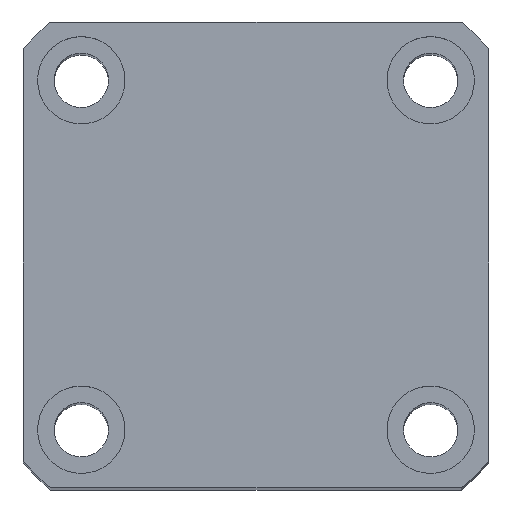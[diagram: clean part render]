
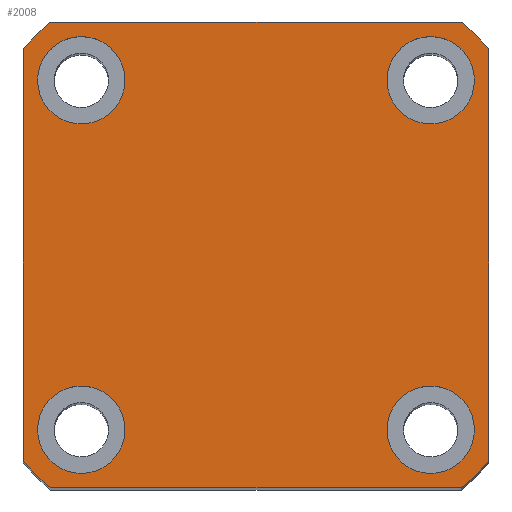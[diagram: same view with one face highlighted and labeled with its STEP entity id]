
A CAD part, top view. The second image highlights one B-rep face of the part: STEP entity #2008.
In plain terms, the highlighted planar face has unit normal (0, 0, 1) as drawn and (1, 0, 0) by its records, which use the part's own axes.
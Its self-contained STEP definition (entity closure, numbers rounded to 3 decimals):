
#76 = CARTESIAN_POINT ( 'NONE',  ( 120., 0., 0. ) ) ;
#86 = VERTEX_POINT ( 'NONE', #9124 ) ;
#99 = DIRECTION ( 'NONE',  ( 1., 0., 0. ) ) ;
#115 = DIRECTION ( 'NONE',  ( 0., 0., -1. ) ) ;
#128 = AXIS2_PLACEMENT_3D ( 'NONE', #5880, #972, #6696 ) ;
#230 = VECTOR ( 'NONE', #8205, 1000. ) ;
#255 = VERTEX_POINT ( 'NONE', #9692 ) ;
#265 = EDGE_CURVE ( 'NONE', #6710, #255, #4548, .T. ) ;
#287 = CARTESIAN_POINT ( 'NONE',  ( 120., -18., -22.5 ) ) ;
#294 = ORIENTED_EDGE ( 'NONE', *, *, #1187, .T. ) ;
#351 = VERTEX_POINT ( 'NONE', #287 ) ;
#440 = CARTESIAN_POINT ( 'NONE',  ( 120., 24., 24. ) ) ;
#732 = VERTEX_POINT ( 'NONE', #10292 ) ;
#972 = DIRECTION ( 'NONE',  ( 1., 0., 0. ) ) ;
#1020 = CARTESIAN_POINT ( 'NONE',  ( 120., 24., -21.166 ) ) ;
#1026 = VERTEX_POINT ( 'NONE', #8653 ) ;
#1082 = AXIS2_PLACEMENT_3D ( 'NONE', #1094, #6814, #1909 ) ;
#1094 = CARTESIAN_POINT ( 'NONE',  ( 120., 0., 0. ) ) ;
#1187 = EDGE_CURVE ( 'NONE', #2970, #732, #3881, .T. ) ;
#1197 = DIRECTION ( 'NONE',  ( 1., 0., 0. ) ) ;
#1320 = ORIENTED_EDGE ( 'NONE', *, *, #6054, .T. ) ;
#1357 = ORIENTED_EDGE ( 'NONE', *, *, #2618, .T. ) ;
#1427 = EDGE_LOOP ( 'NONE', ( #3782, #4783 ) ) ;
#1434 = FACE_BOUND ( 'NONE', #3692, .T. ) ;
#1490 = CIRCLE ( 'NONE', #10005, 4.5 ) ;
#1832 = ORIENTED_EDGE ( 'NONE', *, *, #9576, .F. ) ;
#1898 = CARTESIAN_POINT ( 'NONE',  ( 120., 18., 18. ) ) ;
#1909 = DIRECTION ( 'NONE',  ( 0., 0., -1. ) ) ;
#1947 = AXIS2_PLACEMENT_3D ( 'NONE', #8275, #8216, #7265 ) ;
#2008 = ADVANCED_FACE ( 'NONE', ( #8255, #1434, #5799, #5529, #3328 ), #3156, .T. ) ;
#2137 = VECTOR ( 'NONE', #6811, 1000. ) ;
#2180 = CIRCLE ( 'NONE', #2672, 32. ) ;
#2339 = ORIENTED_EDGE ( 'NONE', *, *, #8040, .F. ) ;
#2591 = ORIENTED_EDGE ( 'NONE', *, *, #3920, .F. ) ;
#2618 = EDGE_CURVE ( 'NONE', #8351, #6082, #2180, .T. ) ;
#2672 = AXIS2_PLACEMENT_3D ( 'NONE', #8628, #8724, #8872 ) ;
#2708 = DIRECTION ( 'NONE',  ( 0., 0., -1. ) ) ;
#2750 = EDGE_CURVE ( 'NONE', #6082, #4438, #9973, .T. ) ;
#2808 = CARTESIAN_POINT ( 'NONE',  ( 120., 18., -18. ) ) ;
#2814 = LINE ( 'NONE', #5028, #8885 ) ;
#2935 = AXIS2_PLACEMENT_3D ( 'NONE', #4613, #10442, #5424 ) ;
#2970 = VERTEX_POINT ( 'NONE', #9471 ) ;
#2976 = DIRECTION ( 'NONE',  ( 1., 0., 0. ) ) ;
#3156 = PLANE ( 'NONE',  #5295 ) ;
#3245 = ORIENTED_EDGE ( 'NONE', *, *, #8116, .F. ) ;
#3248 = CARTESIAN_POINT ( 'NONE',  ( 120., -24., 24. ) ) ;
#3307 = CARTESIAN_POINT ( 'NONE',  ( 120., 18., -13.5 ) ) ;
#3317 = VECTOR ( 'NONE', #10069, 1000. ) ;
#3324 = EDGE_LOOP ( 'NONE', ( #2591, #4026 ) ) ;
#3328 = FACE_OUTER_BOUND ( 'NONE', #9386, .T. ) ;
#3382 = CIRCLE ( 'NONE', #10370, 4.5 ) ;
#3446 = CIRCLE ( 'NONE', #7840, 4.5 ) ;
#3633 = DIRECTION ( 'NONE',  ( 0., 0., -1. ) ) ;
#3637 = DIRECTION ( 'NONE',  ( 0., 0., -1. ) ) ;
#3692 = EDGE_LOOP ( 'NONE', ( #3245, #3784 ) ) ;
#3782 = ORIENTED_EDGE ( 'NONE', *, *, #9056, .F. ) ;
#3784 = ORIENTED_EDGE ( 'NONE', *, *, #4975, .F. ) ;
#3799 = VERTEX_POINT ( 'NONE', #4010 ) ;
#3881 = CIRCLE ( 'NONE', #10638, 32. ) ;
#3889 = CARTESIAN_POINT ( 'NONE',  ( 120., -18., 18. ) ) ;
#3920 = EDGE_CURVE ( 'NONE', #351, #3799, #6536, .T. ) ;
#3933 = CARTESIAN_POINT ( 'NONE',  ( 120., 24., 21.166 ) ) ;
#3990 = EDGE_LOOP ( 'NONE', ( #2339, #1832 ) ) ;
#4010 = CARTESIAN_POINT ( 'NONE',  ( 120., -18., -13.5 ) ) ;
#4026 = ORIENTED_EDGE ( 'NONE', *, *, #5185, .F. ) ;
#4142 = DIRECTION ( 'NONE',  ( 1., 0., 0. ) ) ;
#4155 = CARTESIAN_POINT ( 'NONE',  ( 120., 0., 0. ) ) ;
#4165 = AXIS2_PLACEMENT_3D ( 'NONE', #1898, #7631, #2708 ) ;
#4179 = CARTESIAN_POINT ( 'NONE',  ( 120., -21.166, -24. ) ) ;
#4378 = LINE ( 'NONE', #3248, #230 ) ;
#4438 = VERTEX_POINT ( 'NONE', #9201 ) ;
#4463 = DIRECTION ( 'NONE',  ( 0., 0., 1. ) ) ;
#4548 = CIRCLE ( 'NONE', #1947, 32. ) ;
#4613 = CARTESIAN_POINT ( 'NONE',  ( 120., -18., -18. ) ) ;
#4660 = DIRECTION ( 'NONE',  ( 1., 0., 0. ) ) ;
#4729 = DIRECTION ( 'NONE',  ( 0., 0., -1. ) ) ;
#4783 = ORIENTED_EDGE ( 'NONE', *, *, #5447, .F. ) ;
#4975 = EDGE_CURVE ( 'NONE', #7412, #5129, #9171, .T. ) ;
#5028 = CARTESIAN_POINT ( 'NONE',  ( 120., 24., 24. ) ) ;
#5037 = EDGE_CURVE ( 'NONE', #6373, #6710, #2814, .T. ) ;
#5129 = VERTEX_POINT ( 'NONE', #7778 ) ;
#5185 = EDGE_CURVE ( 'NONE', #3799, #351, #6389, .T. ) ;
#5295 = AXIS2_PLACEMENT_3D ( 'NONE', #76, #99, #115 ) ;
#5424 = DIRECTION ( 'NONE',  ( 0., 0., -1. ) ) ;
#5447 = EDGE_CURVE ( 'NONE', #10545, #9090, #3446, .T. ) ;
#5529 = FACE_BOUND ( 'NONE', #3990, .T. ) ;
#5638 = AXIS2_PLACEMENT_3D ( 'NONE', #7915, #2976, #8786 ) ;
#5799 = FACE_BOUND ( 'NONE', #1427, .T. ) ;
#5845 = CIRCLE ( 'NONE', #1082, 32. ) ;
#5880 = CARTESIAN_POINT ( 'NONE',  ( 120., -18., 18. ) ) ;
#6054 = EDGE_CURVE ( 'NONE', #732, #8351, #4378, .T. ) ;
#6082 = VERTEX_POINT ( 'NONE', #4179 ) ;
#6102 = CARTESIAN_POINT ( 'NONE',  ( 120., 18., -18. ) ) ;
#6243 = LINE ( 'NONE', #440, #2137 ) ;
#6373 = VERTEX_POINT ( 'NONE', #1020 ) ;
#6389 = CIRCLE ( 'NONE', #5638, 4.5 ) ;
#6522 = EDGE_CURVE ( 'NONE', #255, #2970, #6243, .T. ) ;
#6536 = CIRCLE ( 'NONE', #2935, 4.5 ) ;
#6696 = DIRECTION ( 'NONE',  ( 0., 0., -1. ) ) ;
#6710 = VERTEX_POINT ( 'NONE', #3933 ) ;
#6723 = ORIENTED_EDGE ( 'NONE', *, *, #2750, .T. ) ;
#6811 = DIRECTION ( 'NONE',  ( 0., -1., 0. ) ) ;
#6814 = DIRECTION ( 'NONE',  ( 1., 0., 0. ) ) ;
#6914 = DIRECTION ( 'NONE',  ( 0., 0., -1. ) ) ;
#7265 = DIRECTION ( 'NONE',  ( 0., 0., -1. ) ) ;
#7412 = VERTEX_POINT ( 'NONE', #8452 ) ;
#7631 = DIRECTION ( 'NONE',  ( 1., 0., 0. ) ) ;
#7743 = CARTESIAN_POINT ( 'NONE',  ( 120., 18., -22.5 ) ) ;
#7778 = CARTESIAN_POINT ( 'NONE',  ( 120., -18., 13.5 ) ) ;
#7840 = AXIS2_PLACEMENT_3D ( 'NONE', #2808, #8601, #3637 ) ;
#7915 = CARTESIAN_POINT ( 'NONE',  ( 120., -18., -18. ) ) ;
#8028 = CIRCLE ( 'NONE', #8855, 4.5 ) ;
#8040 = EDGE_CURVE ( 'NONE', #1026, #86, #8028, .T. ) ;
#8116 = EDGE_CURVE ( 'NONE', #5129, #7412, #1490, .T. ) ;
#8205 = DIRECTION ( 'NONE',  ( 0., 0., -1. ) ) ;
#8216 = DIRECTION ( 'NONE',  ( 1., 0., 0. ) ) ;
#8255 = FACE_BOUND ( 'NONE', #3324, .T. ) ;
#8275 = CARTESIAN_POINT ( 'NONE',  ( 120., 0., 0. ) ) ;
#8351 = VERTEX_POINT ( 'NONE', #9805 ) ;
#8451 = ORIENTED_EDGE ( 'NONE', *, *, #6522, .T. ) ;
#8452 = CARTESIAN_POINT ( 'NONE',  ( 120., -18., 22.5 ) ) ;
#8601 = DIRECTION ( 'NONE',  ( 1., 0., 0. ) ) ;
#8628 = CARTESIAN_POINT ( 'NONE',  ( 120., 0., 0. ) ) ;
#8653 = CARTESIAN_POINT ( 'NONE',  ( 120., 18., 13.5 ) ) ;
#8724 = DIRECTION ( 'NONE',  ( 1., 0., 0. ) ) ;
#8786 = DIRECTION ( 'NONE',  ( 0., 0., -1. ) ) ;
#8796 = ORIENTED_EDGE ( 'NONE', *, *, #8974, .T. ) ;
#8835 = ORIENTED_EDGE ( 'NONE', *, *, #5037, .T. ) ;
#8855 = AXIS2_PLACEMENT_3D ( 'NONE', #9630, #4660, #10487 ) ;
#8872 = DIRECTION ( 'NONE',  ( 0., 0., -1. ) ) ;
#8885 = VECTOR ( 'NONE', #4463, 1000. ) ;
#8914 = ORIENTED_EDGE ( 'NONE', *, *, #265, .T. ) ;
#8974 = EDGE_CURVE ( 'NONE', #4438, #6373, #5845, .T. ) ;
#9056 = EDGE_CURVE ( 'NONE', #9090, #10545, #3382, .T. ) ;
#9090 = VERTEX_POINT ( 'NONE', #7743 ) ;
#9124 = CARTESIAN_POINT ( 'NONE',  ( 120., 18., 22.5 ) ) ;
#9171 = CIRCLE ( 'NONE', #128, 4.5 ) ;
#9201 = CARTESIAN_POINT ( 'NONE',  ( 120., 21.166, -24. ) ) ;
#9386 = EDGE_LOOP ( 'NONE', ( #6723, #8796, #8835, #8914, #8451, #294, #1320, #1357 ) ) ;
#9471 = CARTESIAN_POINT ( 'NONE',  ( 120., -21.166, 24. ) ) ;
#9576 = EDGE_CURVE ( 'NONE', #86, #1026, #10435, .T. ) ;
#9630 = CARTESIAN_POINT ( 'NONE',  ( 120., 18., 18. ) ) ;
#9692 = CARTESIAN_POINT ( 'NONE',  ( 120., 21.166, 24. ) ) ;
#9701 = DIRECTION ( 'NONE',  ( 1., 0., 0. ) ) ;
#9805 = CARTESIAN_POINT ( 'NONE',  ( 120., -24., -21.166 ) ) ;
#9973 = LINE ( 'NONE', #10151, #3317 ) ;
#10005 = AXIS2_PLACEMENT_3D ( 'NONE', #3889, #9701, #4729 ) ;
#10069 = DIRECTION ( 'NONE',  ( 0., 1., 0. ) ) ;
#10151 = CARTESIAN_POINT ( 'NONE',  ( 120., 24., -24. ) ) ;
#10292 = CARTESIAN_POINT ( 'NONE',  ( 120., -24., 21.166 ) ) ;
#10370 = AXIS2_PLACEMENT_3D ( 'NONE', #6102, #1197, #6914 ) ;
#10435 = CIRCLE ( 'NONE', #4165, 4.5 ) ;
#10442 = DIRECTION ( 'NONE',  ( 1., 0., 0. ) ) ;
#10487 = DIRECTION ( 'NONE',  ( 0., 0., -1. ) ) ;
#10545 = VERTEX_POINT ( 'NONE', #3307 ) ;
#10638 = AXIS2_PLACEMENT_3D ( 'NONE', #4155, #4142, #3633 ) ;
